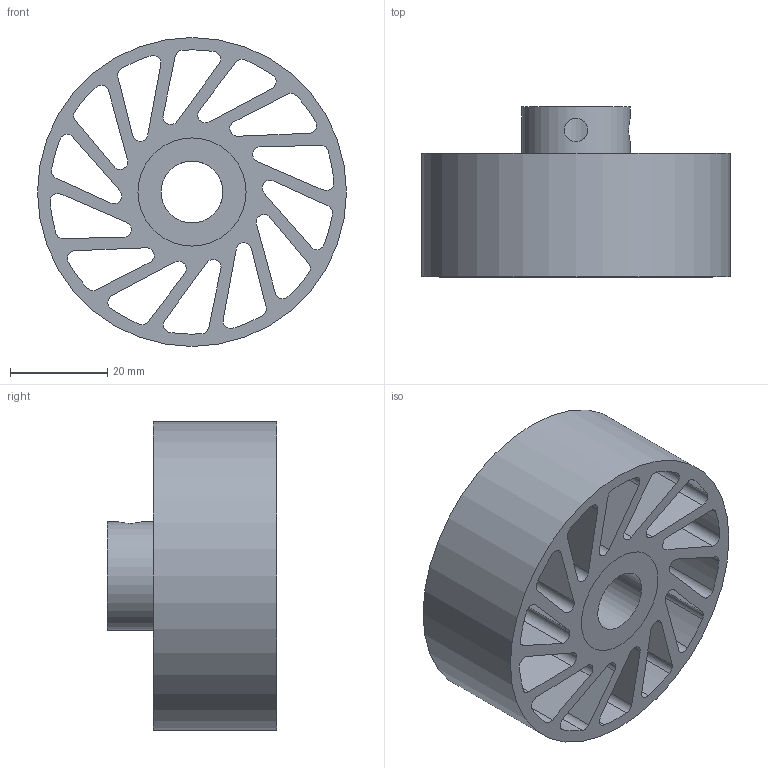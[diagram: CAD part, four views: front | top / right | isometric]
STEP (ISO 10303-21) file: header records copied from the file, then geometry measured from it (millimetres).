
FILE_DESCRIPTION(/* description */ (''),/* implementation_level */ '2;1');
FILE_NAME(/* name */ 'NCW-320-XXX-YYY.stp',/* time_stamp */ '2023-02-01T16:58:45-06:00',/* author */ ('AG'),/* organization */ ('Meridian Laboratory'),/* preprocessor_version */ 'ST-DEVELOPER v18.1',/* originating_system */ 'Autodesk Inventor 2022',/* authorisation */ '');
FILE_SCHEMA (('AUTOMOTIVE_DESIGN { 1 0 10303 214 3 1 1 }'));
Length unit declared in the file: inch
Products named in the file (1): NCW-300
Bounding box: 63.5 x 34.92 x 63.5 mm (x, y, z)
Volume: 44182 mm3; surface area: 29421.2 mm2
Topology: 2 solids, 2 shells, 94 faces, 276 edges, 186 vertices
Faces by surface type: cylinder 62, plane 32
Full cylindrical faces by diameter (mm): 4.826 x2, 12.725 x1, 22.225 x2, 63.5 x1
Entity records: 3538 total; most frequent: CARTESIAN_POINT 697, DIRECTION 576, ORIENTED_EDGE 552, EDGE_CURVE 276, AXIS2_PLACEMENT_3D 215, VERTEX_POINT 186, LINE 146, VECTOR 146
